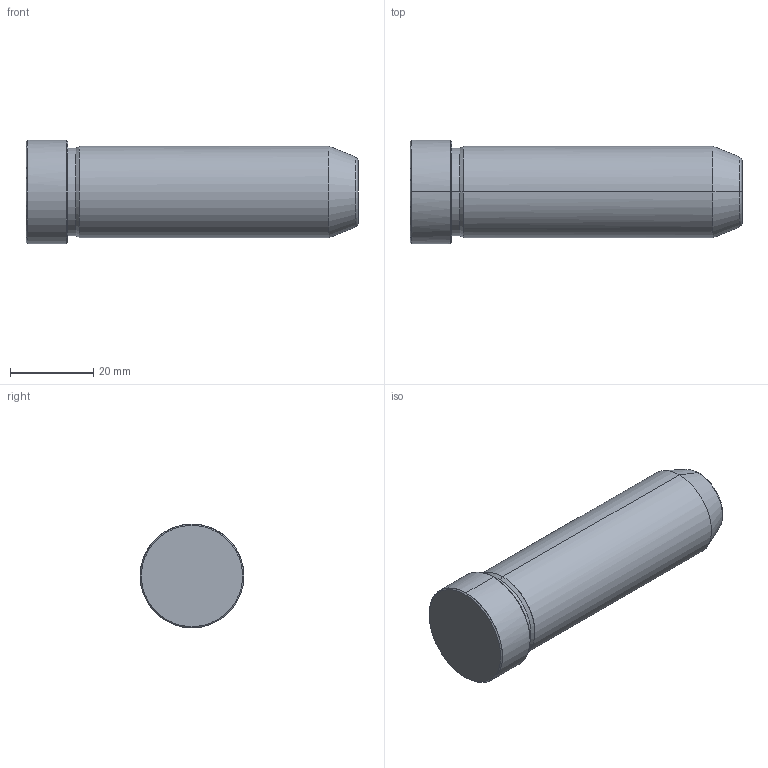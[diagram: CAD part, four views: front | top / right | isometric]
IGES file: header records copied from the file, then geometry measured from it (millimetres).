
Start section: START RECORD GO HERE.
Global section: file name: 549-22X80.igs; native system: DASSAULT SYSTEMES CATIA V5 R20 - www.3ds.com; preprocessor: CATIA Version 5 Release 20 ; author: Utente; organization: NB04-ASUS; date: 20211213.140115; units: millimetre
Bounding box: 80 x 25 x 25 mm (x, y, z)
Surface area: 6404.6 mm2 (no closed solid volume)
Topology: 0 solids, 0 shells, 19 faces, 112 edges, 112 vertices
Faces by surface type: revolution 16, plane 3
